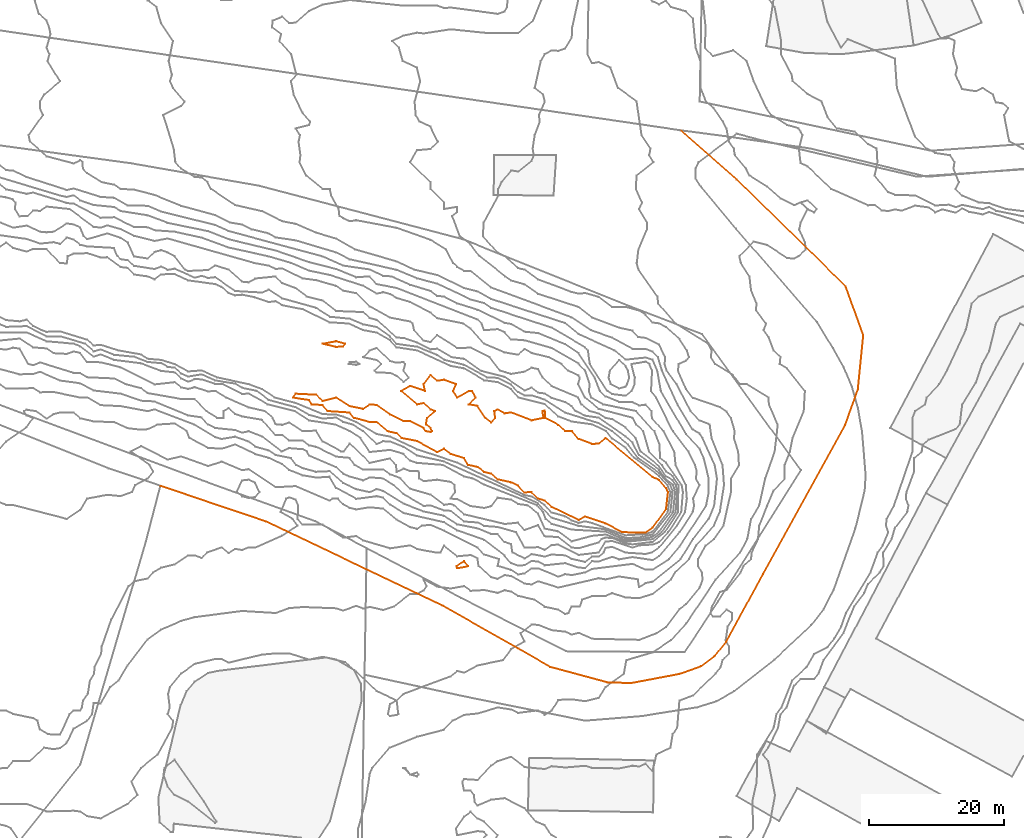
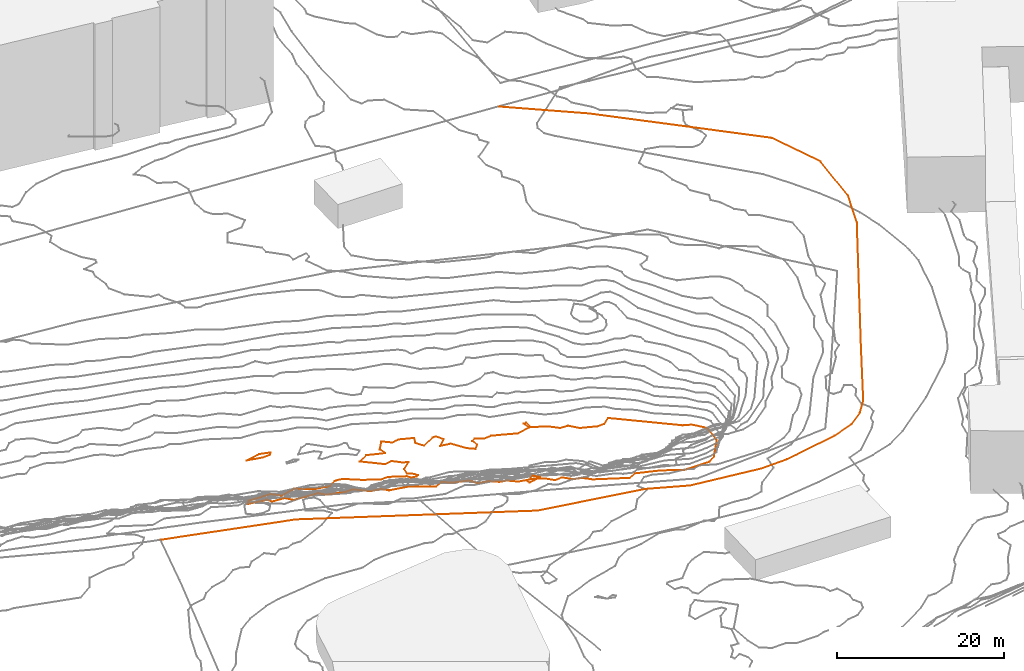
# Not in any storey, part 237 of 419: 4 proxies.
"""IFC2X3 model written with IfcOpenShell, lengths in metres."""

from ifc_helpers import new_model, entity, si_unit, frame, origin_with_axes, place, context, subcontext, project, element, save


model = new_model("IFC2X3")

# Units and contexts
model_context = context("Model", 3, precision=1e-05, world=origin_with_axes())
body_context = subcontext(model_context, "Body", "Model", "MODEL_VIEW")
ifc_project = project(units=[si_unit("AREAUNIT", "SQUARE_METRE"), si_unit("LENGTHUNIT", "METRE")], contexts=[model_context])

# Proxies
proxy_1_placement = place(None, frame((481.9920204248, 497.7976909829, 32.6), z_axis=(0.0, 0.0, 1.0), x_axis=(1.0, 0.0, 0.0)))
element("IfcBuildingElementProxy", 1, at=proxy_1_placement, Name="Route 284", ObjectType="NOTDEFINED", context=body_context, shape_type="GeometricCurveSet", body=[
    entity("IfcGeometricCurveSet", [entity("IfcPolyline", [entity("IfcCartesianPoint", [77.2999999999, 52.7999999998, 4.4]), entity("IfcCartesianPoint", [85.6, 45.5, 4.9]), entity("IfcCartesianPoint", [101.7999999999, 29.5999999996, 5.3]), entity("IfcCartesianPoint", [104.4, 22.3999999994, 5.3]), entity("IfcCartesianPoint", [103.6, 14.3999999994, 5.4]), entity("IfcCartesianPoint", [101.7, 9.0, 5.4]), entity("IfcCartesianPoint", [89.5, -13.1000000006, 5.2]), entity("IfcCartesianPoint", [84.0, -23.2000000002, 5.1]), entity("IfcCartesianPoint", [82.2999999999, -25.3000000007, 5.1]), entity("IfcCartesianPoint", [80.2999999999, -26.8000000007, 5.1]), entity("IfcCartesianPoint", [77.2999999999, -27.9000000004, 5.1]), entity("IfcCartesianPoint", [69.9, -29.3000000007, 5.1]), entity("IfcCartesianPoint", [66.4, -29.2000000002, 4.9]), entity("IfcCartesianPoint", [57.9, -26.9000000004, 4.0]), entity("IfcCartesianPoint", [53.2, -24.2000000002, 3.5]), entity("IfcCartesianPoint", [41.9, -17.8000000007, 0.4]), entity("IfcCartesianPoint", [15.7, -5.3000000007, 0.7]), entity("IfcCartesianPoint", [0.0, 0.0, 0.0])])]),
])
proxy_2_placement = place(None, frame((506.0920537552, 518.8976909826, 23.0), z_axis=(0.0, 0.0, 1.0), x_axis=(1.0, 0.0, 0.0)))
element("IfcBuildingElementProxy", 2, at=proxy_2_placement, Name="Contour 23.0 m", ObjectType="NOTDEFINED", context=body_context, shape_type="GeometricCurveSet", body=[
    entity("IfcGeometricCurveSet", [entity("IfcPolyline", [entity("IfcCartesianPoint", [2.9999666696, -0.4000000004, 0.0]), entity("IfcCartesianPoint", [3.333300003, 0.0, 0.0]), entity("IfcCartesianPoint", [1.9999666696, 0.3684184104, 0.0]), entity("IfcCartesianPoint", [0.0, 0.0, 0.0]), entity("IfcCartesianPoint", [1.9999666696, -0.4666658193, 0.0]), entity("IfcCartesianPoint", [2.9999666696, -0.4000000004, 0.0])])]),
])
proxy_3_placement = place(None, frame((501.6689415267, 510.8976909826, 23.0), z_axis=(0.0, 0.0, 1.0), x_axis=(1.0, 0.0, 0.0)))
element("IfcBuildingElementProxy", 3, at=proxy_3_placement, Name="Contour 23.0 m", ObjectType="NOTDEFINED", context=body_context, shape_type="GeometricCurveSet", body=[
    entity("IfcGeometricCurveSet", [entity("IfcPolyline", [entity("IfcCartesianPoint", [52.4230788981, -20.0225564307, 0.0]), entity("IfcCartesianPoint", [53.4230788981, -19.3212122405, 0.0]), entity("IfcCartesianPoint", [55.4230788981, -16.5384611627, 0.0]), entity("IfcCartesianPoint", [55.7158546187, -14.0, 0.0]), entity("IfcCartesianPoint", [55.4230788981, -13.4031008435, 0.0]), entity("IfcCartesianPoint", [54.4230788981, -12.2352949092, 0.0]), entity("IfcCartesianPoint", [53.4230788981, -11.8210526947, 0.0]), entity("IfcCartesianPoint", [46.4230788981, -6.0000124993, 0.0]), entity("IfcCartesianPoint", [45.4230788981, -6.8421020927, 0.0]), entity("IfcCartesianPoint", [44.4230788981, -6.8749970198, 0.0]), entity("IfcCartesianPoint", [42.4230788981, -6.1176496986, 0.0]), entity("IfcCartesianPoint", [41.4601167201, -5.0, 0.0]), entity("IfcCartesianPoint", [40.4230788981, -4.9629621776, 0.0]), entity("IfcCartesianPoint", [39.4230788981, -4.0416676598, 0.0]), entity("IfcCartesianPoint", [37.4630798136, -3.0, 0.0]), entity("IfcCartesianPoint", [37.4230788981, -1.9326925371, 0.0]), entity("IfcCartesianPoint", [37.0546604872, -2.0, 0.0]), entity("IfcCartesianPoint", [37.2564069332, -3.0, 0.0]), entity("IfcCartesianPoint", [35.4230788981, -3.3750009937, 0.0]), entity("IfcCartesianPoint", [32.4230788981, -2.2000038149, 0.0]), entity("IfcCartesianPoint", [31.4230788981, -2.3333386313, 0.0]), entity("IfcCartesianPoint", [30.4230788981, -1.75, 0.0]), entity("IfcCartesianPoint", [29.923128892, -2.0, 0.0]), entity("IfcCartesianPoint", [30.0480818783, -3.0, 0.0]), entity("IfcCartesianPoint", [29.4230788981, -3.6666709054, 0.0]), entity("IfcCartesianPoint", [28.5897482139, -3.0, 0.0]), entity("IfcCartesianPoint", [27.4230788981, -1.2222269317, 0.0]), entity("IfcCartesianPoint", [26.0897455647, -1.0, 0.0]), entity("IfcCartesianPoint", [27.1373568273, 0.0, 0.0]), entity("IfcCartesianPoint", [26.6230788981, 1.0, 0.0]), entity("IfcCartesianPoint", [26.1730788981, 1.0, 0.0]), entity("IfcCartesianPoint", [24.4229789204, 0.0, 0.0]), entity("IfcCartesianPoint", [23.7980878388, 1.0, 0.0]), entity("IfcCartesianPoint", [24.2230788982, 2.0, 0.0]), entity("IfcCartesianPoint", [22.4230788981, 2.666666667, 0.0]), entity("IfcCartesianPoint", [21.4230788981, 2.4999750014, 0.0]), entity("IfcCartesianPoint", [20.4230788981, 3.333333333, 0.0]), entity("IfcCartesianPoint", [19.4231788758, 2.0, 0.0]), entity("IfcCartesianPoint", [19.6230788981, 1.0, 0.0]), entity("IfcCartesianPoint", [17.4230788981, 1.7499940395, 0.0]), entity("IfcCartesianPoint", [16.0897455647, 1.0, 0.0]), entity("IfcCartesianPoint", [18.4230788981, -0.9999900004, 0.0]), entity("IfcCartesianPoint", [19.4230788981, -0.8124955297, 0.0]), entity("IfcCartesianPoint", [20.4230788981, -1.7499940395, 0.0]), entity("IfcCartesianPoint", [21.0897455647, -2.0, 0.0]), entity("IfcCartesianPoint", [19.9230955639, -3.0, 0.0]), entity("IfcCartesianPoint", [19.7564122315, -4.0, 0.0]), entity("IfcCartesianPoint", [20.4230788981, -4.4999750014, 0.0]), entity("IfcCartesianPoint", [20.7088009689, -5.0, 0.0]), entity("IfcCartesianPoint", [20.4230788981, -5.1111134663, 0.0]), entity("IfcCartesianPoint", [19.7564122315, -5.0, 0.0]), entity("IfcCartesianPoint", [19.4230788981, -4.5000499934, 0.0]), entity("IfcCartesianPoint", [17.4230788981, -3.5000499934, 0.0]), entity("IfcCartesianPoint", [16.4230788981, -3.5000249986, 0.0]), entity("IfcCartesianPoint", [14.4230788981, -2.5000083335, 0.0]), entity("IfcCartesianPoint", [12.4230788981, -1.100001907, 0.0]), entity("IfcCartesianPoint", [11.4230788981, -1.0000499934, 0.0]), entity("IfcCartesianPoint", [10.4230788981, -1.666666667, 0.0]), entity("IfcCartesianPoint", [8.4230788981, -1.2666700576, 0.0]), entity("IfcCartesianPoint", [6.4230788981, -6.6664e-06, 0.0]), entity("IfcCartesianPoint", [4.4230788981, -0.5000124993, 0.0]), entity("IfcCartesianPoint", [3.4230788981, 0.4285694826, 0.0]), entity("IfcCartesianPoint", [0.4230788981, 0.5789489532, 0.0]), entity("IfcCartesianPoint", [0.0, 0.0, 0.0]), entity("IfcCartesianPoint", [2.4230788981, -0.3636426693, 0.0]), entity("IfcCartesianPoint", [2.8119654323, -1.0, 0.0]), entity("IfcCartesianPoint", [4.4230788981, -1.1081103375, 0.0]), entity("IfcCartesianPoint", [5.1730778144, -2.0, 0.0]), entity("IfcCartesianPoint", [8.4230788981, -2.2200012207, 0.0]), entity("IfcCartesianPoint", [9.0840946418, -3.0, 0.0]), entity("IfcCartesianPoint", [11.4230788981, -3.6363573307, 0.0]), entity("IfcCartesianPoint", [12.4230788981, -3.6249990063, 0.0]), entity("IfcCartesianPoint", [14.0546592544, -5.0, 0.0]), entity("IfcCartesianPoint", [15.4230788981, -5.2941167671, 0.0]), entity("IfcCartesianPoint", [16.1430801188, -6.0, 0.0]), entity("IfcCartesianPoint", [18.4230788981, -6.45282917, 0.0]), entity("IfcCartesianPoint", [21.4230788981, -8.0971429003, 0.0]), entity("IfcCartesianPoint", [22.4230788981, -7.5999987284, 0.0]), entity("IfcCartesianPoint", [23.4230788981, -8.3582085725, 0.0]), entity("IfcCartesianPoint", [25.4230788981, -8.999983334, 0.0]), entity("IfcCartesianPoint", [26.0287122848, -10.0, 0.0]), entity("IfcCartesianPoint", [27.4230788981, -10.3008133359, 0.0]), entity("IfcCartesianPoint", [28.4230788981, -11.033333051, 0.0]), entity("IfcCartesianPoint", [29.4230788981, -11.3133328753, 0.0]), entity("IfcCartesianPoint", [30.4230788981, -12.1373389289, 0.0]), entity("IfcCartesianPoint", [32.4230788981, -12.5810816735, 0.0]), entity("IfcCartesianPoint", [33.4230788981, -13.0743802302, 0.0]), entity("IfcCartesianPoint", [34.4230788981, -14.091269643, 0.0]), entity("IfcCartesianPoint", [35.4230788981, -13.9999965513, 0.0]), entity("IfcCartesianPoint", [36.3897460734, -15.0, 0.0]), entity("IfcCartesianPoint", [37.4230788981, -15.300653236, 0.0]), entity("IfcCartesianPoint", [38.4230788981, -16.2288138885, 0.0]), entity("IfcCartesianPoint", [42.4230788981, -18.1652170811, 0.0]), entity("IfcCartesianPoint", [43.4230788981, -17.6612901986, 0.0]), entity("IfcCartesianPoint", [46.4230788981, -18.6741567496, 0.0]), entity("IfcCartesianPoint", [48.923082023, -20.0, 0.0]), entity("IfcCartesianPoint", [52.4230788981, -20.0225564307, 0.0])])]),
])
proxy_4_placement = place(None, frame((525.9670174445, 485.8976909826, 33.0), z_axis=(0.0, 0.0, 1.0), x_axis=(1.0, 0.0, 0.0)))
element("IfcBuildingElementProxy", 4, at=proxy_4_placement, Name="Contour 33.0 m", ObjectType="NOTDEFINED", context=body_context, shape_type="GeometricCurveSet", body=[
    entity("IfcGeometricCurveSet", [entity("IfcPolyline", [entity("IfcCartesianPoint", [1.1250029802, -0.179486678, 0.0]), entity("IfcCartesianPoint", [1.7613603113, 0.0, 0.0]), entity("IfcCartesianPoint", [1.1250029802, 0.7000076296, 0.0]), entity("IfcCartesianPoint", [0.0, 0.0, 0.0]), entity("IfcCartesianPoint", [0.1250029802, -0.333333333, 0.0]), entity("IfcCartesianPoint", [1.1250029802, -0.179486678, 0.0])])]),
])

save(model, "model.ifc")
